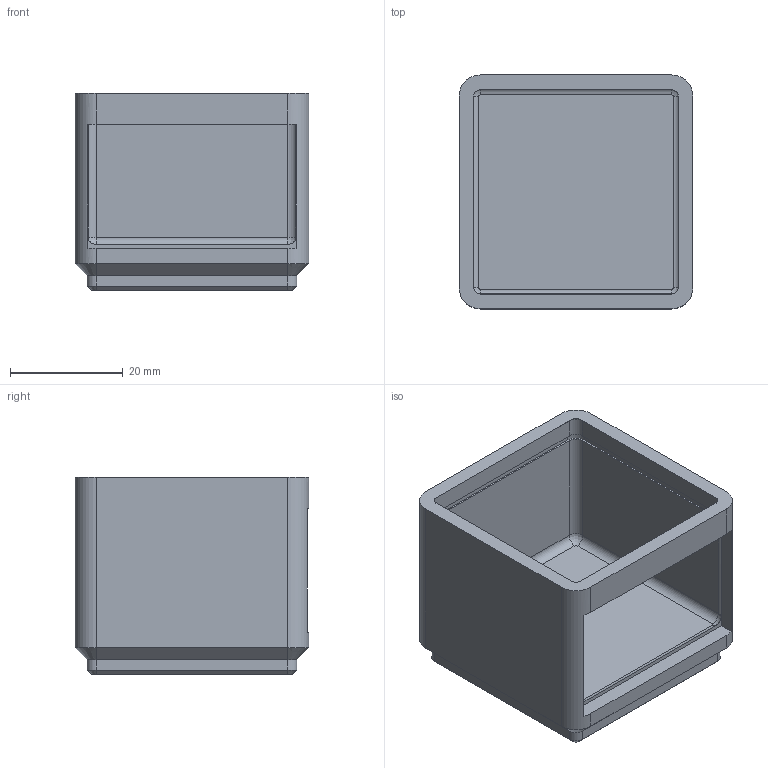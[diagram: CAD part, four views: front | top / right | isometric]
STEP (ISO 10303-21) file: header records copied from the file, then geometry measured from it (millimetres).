
FILE_DESCRIPTION(('Open CASCADE Model'),'2;1');
FILE_NAME('Open CASCADE Shape Model','2026-11-03T17:09:25',('Author'),( 'Open CASCADE'),'Open CASCADE STEP processor 8.0','build123d', 'Unknown');
FILE_SCHEMA(('AUTOMOTIVE_DESIGN { 1 0 10303 214 1 1 1 1 }'));
Length unit declared in the file: millimetre
Products named in the file (1): COMPOUND
Bounding box: 41.5 x 41.5 x 35 mm (x, y, z)
Volume: 19084.7 mm3; surface area: 11471.6 mm2
Topology: 1 solids, 1 shells, 83 faces, 202 edges, 122 vertices
Faces by surface type: plane 43, cylinder 24, cone 12, revolution 4
Entity records: 5190 total; most frequent: CARTESIAN_POINT 1262, DIRECTION 696, ORIENTED_EDGE 404, PCURVE 404, DEFINITIONAL_REPRESENTATION 404, LINE 380, VECTOR 380, EDGE_CURVE 202
